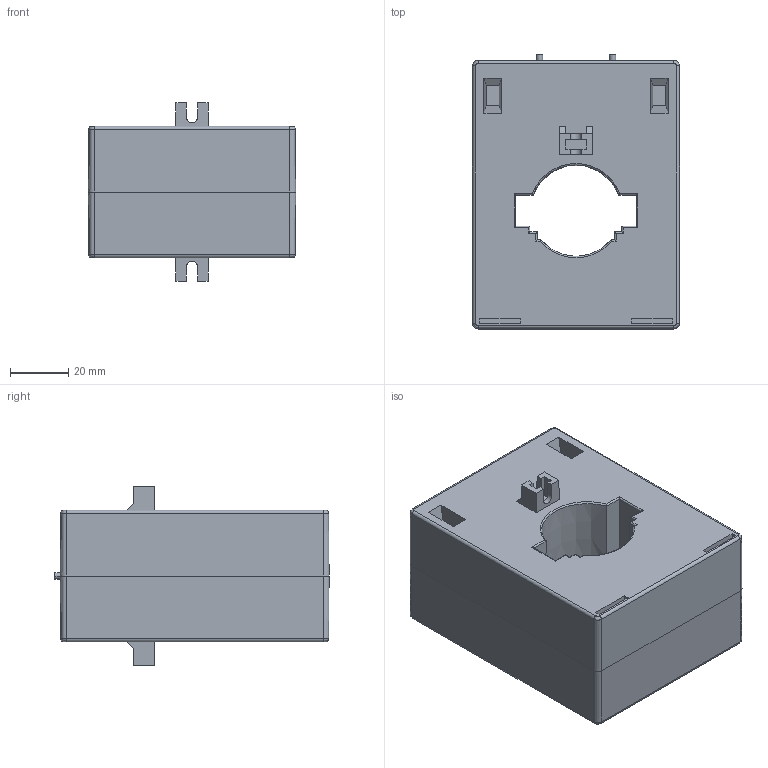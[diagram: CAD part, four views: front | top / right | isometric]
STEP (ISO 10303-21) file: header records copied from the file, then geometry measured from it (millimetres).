
FILE_DESCRIPTION(/* description */ (''),/* implementation_level */ '2;1');
FILE_NAME(/* name */ 'Tu40.stp',/* time_stamp */ '2025-07-19T15:27:26+08:00',/* author */ (''),/* organization */ (''),/* preprocessor_version */ 'ST-DEVELOPER v18.102',/* originating_system */ 'SIEMENS PLM Software NX2206.1700',/* authorisation */ '');
FILE_SCHEMA (('AUTOMOTIVE_DESIGN { 1 0 10303 214 3 1 1 1 }'));
Length unit declared in the file: millimetre
Products named in the file (1): Tu40_objects
Bounding box: 71 x 93.8 x 61 mm (x, y, z)
Volume: 249171.4 mm3; surface area: 45795.7 mm2
Topology: 2 solids, 2 shells, 210 faces, 544 edges, 348 vertices
Faces by surface type: plane 134, cylinder 52, cone 12, bspline 8, torus 4
Entity records: 6603 total; most frequent: CARTESIAN_POINT 1411, ORIENTED_EDGE 1088, DIRECTION 1036, EDGE_CURVE 544, LINE 418, VECTOR 418, VERTEX_POINT 348, AXIS2_PLACEMENT_3D 309
